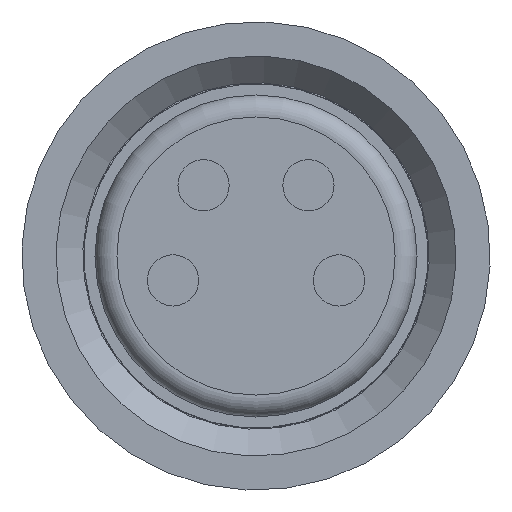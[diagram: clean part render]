
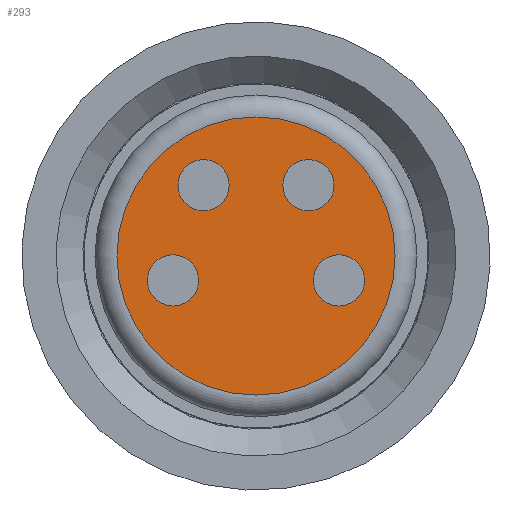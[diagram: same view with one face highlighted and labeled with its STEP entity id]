
A CAD part, left-side view. The second image highlights one B-rep face of the part: STEP entity #293.
In plain terms, the highlighted planar face has unit normal (-1, 0, 0).
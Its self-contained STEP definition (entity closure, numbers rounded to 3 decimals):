
#293 = ADVANCED_FACE( '', ( #633, #634, #635, #636, #637 ), #638, .T. );
#633 = FACE_OUTER_BOUND( '', #1009, .T. );
#634 = FACE_BOUND( '', #1010, .T. );
#635 = FACE_BOUND( '', #1011, .T. );
#636 = FACE_BOUND( '', #1012, .T. );
#637 = FACE_BOUND( '', #1013, .T. );
#638 = PLANE( '', #1014 );
#1009 = EDGE_LOOP( '', ( #1864 ) );
#1010 = EDGE_LOOP( '', ( #1865 ) );
#1011 = EDGE_LOOP( '', ( #1866 ) );
#1012 = EDGE_LOOP( '', ( #1867 ) );
#1013 = EDGE_LOOP( '', ( #1868 ) );
#1014 = AXIS2_PLACEMENT_3D( '', #1869, #1870, #1871 );
#1864 = ORIENTED_EDGE( '', *, *, #2274, .F. );
#1865 = ORIENTED_EDGE( '', *, *, #2169, .F. );
#1866 = ORIENTED_EDGE( '', *, *, #2310, .T. );
#1867 = ORIENTED_EDGE( '', *, *, #2246, .T. );
#1868 = ORIENTED_EDGE( '', *, *, #2149, .F. );
#1869 = CARTESIAN_POINT( '', ( 87.367, -13.23, -38.88 ) );
#1870 = DIRECTION( '', ( -1., 0., 0. ) );
#1871 = DIRECTION( '', ( 0., 1., 0. ) );
#2149 = EDGE_CURVE( '', #2540, #2540, #2541, .T. );
#2169 = EDGE_CURVE( '', #2570, #2570, #2571, .T. );
#2246 = EDGE_CURVE( '', #2684, #2684, #2685, .T. );
#2274 = EDGE_CURVE( '', #2718, #2718, #2719, .T. );
#2310 = EDGE_CURVE( '', #2764, #2764, #2765, .T. );
#2540 = VERTEX_POINT( '', #3402 );
#2541 = CIRCLE( '', #3403, 0.525 );
#2570 = VERTEX_POINT( '', #3437 );
#2571 = CIRCLE( '', #3438, 0.525 );
#2684 = VERTEX_POINT( '', #3625 );
#2685 = CIRCLE( '', #3626, 0.525 );
#2718 = VERTEX_POINT( '', #3712 );
#2719 = CIRCLE( '', #3713, 2.85 );
#2764 = VERTEX_POINT( '', #3773 );
#2765 = CIRCLE( '', #3774, 0.525 );
#3402 = CARTESIAN_POINT( '', ( 87.367, -13.114, -35.787 ) );
#3403 = AXIS2_PLACEMENT_3D( '', #3966, #3967, #3968 );
#3437 = CARTESIAN_POINT( '', ( 87.367, -12.489, -37.737 ) );
#3438 = AXIS2_PLACEMENT_3D( '', #3995, #3996, #3997 );
#3625 = CARTESIAN_POINT( '', ( 87.367, -15.889, -37.737 ) );
#3626 = AXIS2_PLACEMENT_3D( '', #4098, #4099, #4100 );
#3712 = CARTESIAN_POINT( '', ( 87.367, -14.189, -40.612 ) );
#3713 = AXIS2_PLACEMENT_3D( '', #4129, #4130, #4131 );
#3773 = CARTESIAN_POINT( '', ( 87.367, -15.264, -35.787 ) );
#3774 = AXIS2_PLACEMENT_3D( '', #4161, #4162, #4163 );
#3966 = CARTESIAN_POINT( '', ( 87.367, -13.114, -36.312 ) );
#3967 = DIRECTION( '', ( -1., 0., 0. ) );
#3968 = DIRECTION( '', ( 0., 0., 1. ) );
#3995 = CARTESIAN_POINT( '', ( 87.367, -12.489, -38.262 ) );
#3996 = DIRECTION( '', ( -1., 0., 0. ) );
#3997 = DIRECTION( '', ( 0., 0., 1. ) );
#4098 = CARTESIAN_POINT( '', ( 87.367, -15.889, -38.262 ) );
#4099 = DIRECTION( '', ( 1., 0., 0. ) );
#4100 = DIRECTION( '', ( 0., 0., 1. ) );
#4129 = CARTESIAN_POINT( '', ( 87.367, -14.189, -37.762 ) );
#4130 = DIRECTION( '', ( 1., 0., 0. ) );
#4131 = DIRECTION( '', ( 0., 0., -1. ) );
#4161 = CARTESIAN_POINT( '', ( 87.367, -15.264, -36.312 ) );
#4162 = DIRECTION( '', ( 1., 0., 0. ) );
#4163 = DIRECTION( '', ( 0., 0., 1. ) );
